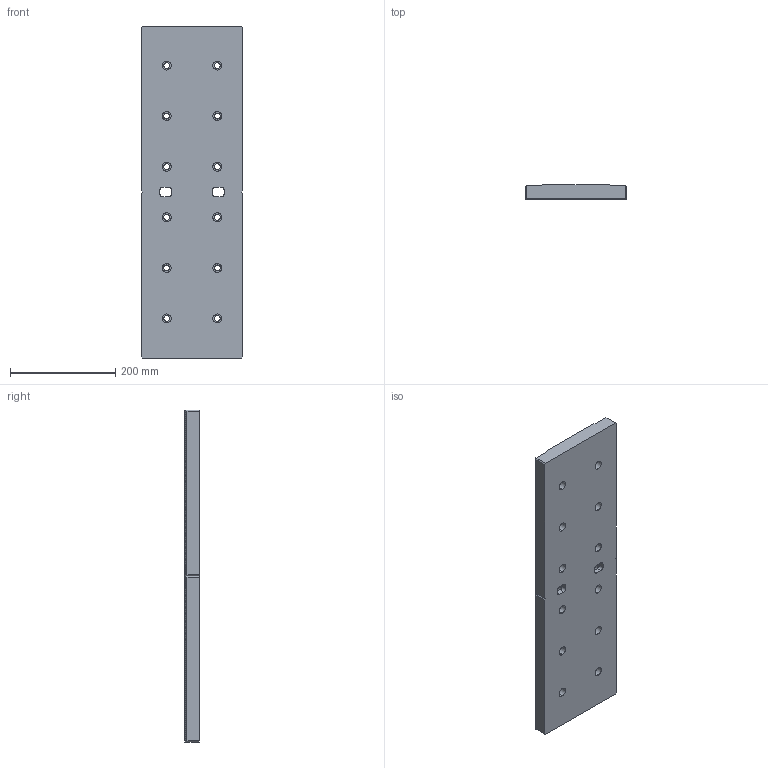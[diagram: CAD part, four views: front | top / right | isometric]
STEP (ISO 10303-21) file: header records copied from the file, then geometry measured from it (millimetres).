
FILE_DESCRIPTION (( 'STEP AP203' ), '1' );
FILE_NAME ('81611.STEP', '2021-11-26T12:24:29', ( '' ), ( '' ), 'SwSTEP 2.0', 'SolidWorks 2019', '' );
FILE_SCHEMA (( 'CONFIG_CONTROL_DESIGN' ));
Length unit declared in the file: millimetre
Products named in the file (1): 81611
Bounding box: 191.9 x 27 x 630 mm (x, y, z)
Volume: 3093416.9 mm3; surface area: 298719.5 mm2
Topology: 1 solids, 1 shells, 172 faces, 418 edges, 276 vertices
Faces by surface type: cylinder 96, plane 76
Entity records: 5243 total; most frequent: DIRECTION 956, CARTESIAN_POINT 867, ORIENTED_EDGE 836, EDGE_CURVE 418, AXIS2_PLACEMENT_3D 365, VERTEX_POINT 276, EDGE_LOOP 228, LINE 226
